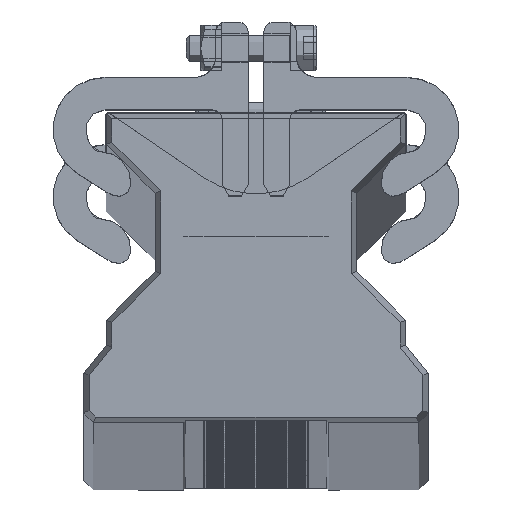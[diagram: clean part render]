
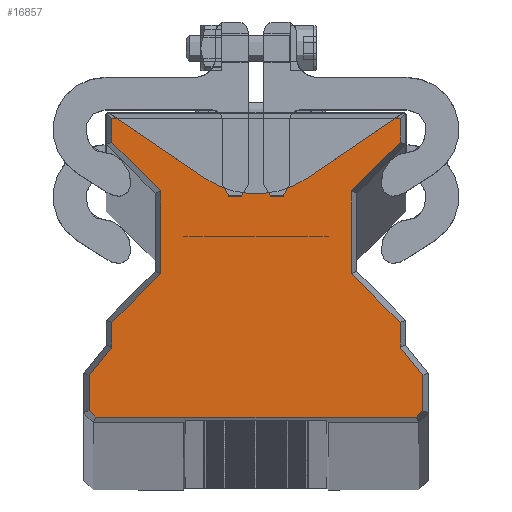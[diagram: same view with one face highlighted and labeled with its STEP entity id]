
A CAD part, top view. The second image highlights one B-rep face of the part: STEP entity #16857.
In plain terms, the highlighted planar face has unit normal (0, 0, 1).
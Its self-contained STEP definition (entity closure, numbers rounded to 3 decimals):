
#6206=DIRECTION('',(1.,0.,0.));
#6207=VECTOR('',#6206,49.296);
#6208=CARTESIAN_POINT('',(-24.648,0.85,0.));
#6209=LINE('',#6208,#6207);
#6210=DIRECTION('',(0.707,-0.707,0.));
#6211=VECTOR('',#6210,1.417);
#6212=CARTESIAN_POINT('',(-25.65,1.852,0.));
#6213=LINE('',#6212,#6211);
#6214=DIRECTION('',(0.,-1.,0.));
#6215=VECTOR('',#6214,5.446);
#6216=CARTESIAN_POINT('',(-25.65,7.298,0.));
#6217=LINE('',#6216,#6215);
#6218=DIRECTION('',(0.631,0.776,0.));
#6219=VECTOR('',#6218,5.548);
#6220=CARTESIAN_POINT('',(-25.65,7.298,0.));
#6221=LINE('',#6220,#6219);
#6222=DIRECTION('',(0.,-1.,0.));
#6223=VECTOR('',#6222,3.795);
#6224=CARTESIAN_POINT('',(-22.15,15.398,0.));
#6225=LINE('',#6224,#6223);
#6226=DIRECTION('',(-0.707,-0.707,0.));
#6227=VECTOR('',#6226,10.607);
#6228=CARTESIAN_POINT('',(-14.65,22.898,0.));
#6229=LINE('',#6228,#6227);
#6230=DIRECTION('',(0.,-1.,0.));
#6231=VECTOR('',#6230,12.704);
#6232=CARTESIAN_POINT('',(-14.65,35.602,0.));
#6233=LINE('',#6232,#6231);
#6234=DIRECTION('',(0.707,-0.707,0.));
#6235=VECTOR('',#6234,10.607);
#6236=CARTESIAN_POINT('',(-22.15,43.102,0.));
#6237=LINE('',#6236,#6235);
#6238=DIRECTION('',(0.,-1.,0.));
#6239=VECTOR('',#6238,3.598);
#6240=CARTESIAN_POINT('',(-22.15,46.7,0.));
#6241=LINE('',#6240,#6239);
#6242=DIRECTION('',(-1.,0.,0.));
#6243=VECTOR('',#6242,44.3);
#6244=CARTESIAN_POINT('',(22.15,46.7,0.));
#6245=LINE('',#6244,#6243);
#6246=DIRECTION('',(0.,1.,0.));
#6247=VECTOR('',#6246,3.598);
#6248=CARTESIAN_POINT('',(22.15,43.102,0.));
#6249=LINE('',#6248,#6247);
#6250=DIRECTION('',(-0.707,-0.707,0.));
#6251=VECTOR('',#6250,10.607);
#6252=CARTESIAN_POINT('',(22.15,43.102,0.));
#6253=LINE('',#6252,#6251);
#6254=DIRECTION('',(0.,1.,0.));
#6255=VECTOR('',#6254,12.704);
#6256=CARTESIAN_POINT('',(14.65,22.898,0.));
#6257=LINE('',#6256,#6255);
#6258=DIRECTION('',(-0.707,0.707,0.));
#6259=VECTOR('',#6258,10.607);
#6260=CARTESIAN_POINT('',(22.15,15.398,0.));
#6261=LINE('',#6260,#6259);
#6262=DIRECTION('',(0.,1.,0.));
#6263=VECTOR('',#6262,3.795);
#6264=CARTESIAN_POINT('',(22.15,11.602,0.));
#6265=LINE('',#6264,#6263);
#6266=DIRECTION('',(-0.631,0.776,0.));
#6267=VECTOR('',#6266,5.548);
#6268=CARTESIAN_POINT('',(25.65,7.298,0.));
#6269=LINE('',#6268,#6267);
#6270=DIRECTION('',(0.,1.,0.));
#6271=VECTOR('',#6270,5.446);
#6272=CARTESIAN_POINT('',(25.65,1.852,0.));
#6273=LINE('',#6272,#6271);
#6274=DIRECTION('',(0.707,0.707,0.));
#6275=VECTOR('',#6274,1.417);
#6276=CARTESIAN_POINT('',(24.648,0.85,0.));
#6277=LINE('',#6276,#6275);
#6654=CARTESIAN_POINT('',(-24.648,0.85,0.));
#6655=CARTESIAN_POINT('',(24.648,0.85,0.));
#6656=VERTEX_POINT('',#6654);
#6657=VERTEX_POINT('',#6655);
#6658=CARTESIAN_POINT('',(25.65,1.852,0.));
#6659=VERTEX_POINT('',#6658);
#6660=CARTESIAN_POINT('',(25.65,7.298,0.));
#6661=VERTEX_POINT('',#6660);
#6662=CARTESIAN_POINT('',(22.15,11.602,0.));
#6663=VERTEX_POINT('',#6662);
#6664=CARTESIAN_POINT('',(22.15,15.398,0.));
#6665=VERTEX_POINT('',#6664);
#6666=CARTESIAN_POINT('',(14.65,22.898,0.));
#6667=VERTEX_POINT('',#6666);
#6668=CARTESIAN_POINT('',(14.65,35.602,0.));
#6669=VERTEX_POINT('',#6668);
#6670=CARTESIAN_POINT('',(22.15,43.102,0.));
#6671=VERTEX_POINT('',#6670);
#6672=CARTESIAN_POINT('',(22.15,46.7,0.));
#6673=VERTEX_POINT('',#6672);
#6674=CARTESIAN_POINT('',(-22.15,46.7,0.));
#6675=VERTEX_POINT('',#6674);
#6676=CARTESIAN_POINT('',(-22.15,43.102,0.));
#6677=VERTEX_POINT('',#6676);
#6678=CARTESIAN_POINT('',(-14.65,35.602,0.));
#6679=VERTEX_POINT('',#6678);
#6680=CARTESIAN_POINT('',(-14.65,22.898,0.));
#6681=VERTEX_POINT('',#6680);
#6682=CARTESIAN_POINT('',(-22.15,15.398,0.));
#6683=VERTEX_POINT('',#6682);
#6684=CARTESIAN_POINT('',(-22.15,11.602,0.));
#6685=VERTEX_POINT('',#6684);
#6686=CARTESIAN_POINT('',(-25.65,7.298,0.));
#6687=VERTEX_POINT('',#6686);
#8174=CARTESIAN_POINT('',(-25.65,1.852,0.));
#8175=VERTEX_POINT('',#8174);
#16815=CARTESIAN_POINT('',(0.,0.,0.));
#16816=DIRECTION('',(0.,0.,1.));
#16817=DIRECTION('',(1.,0.,0.));
#16818=AXIS2_PLACEMENT_3D('',#16815,#16816,#16817);
#16819=PLANE('',#16818);
#16821=ORIENTED_EDGE('',*,*,#16820,.F.);
#16823=ORIENTED_EDGE('',*,*,#16822,.F.);
#16825=ORIENTED_EDGE('',*,*,#16824,.F.);
#16827=ORIENTED_EDGE('',*,*,#16826,.T.);
#16829=ORIENTED_EDGE('',*,*,#16828,.F.);
#16831=ORIENTED_EDGE('',*,*,#16830,.F.);
#16833=ORIENTED_EDGE('',*,*,#16832,.F.);
#16834=ORIENTED_EDGE('',*,*,#16805,.F.);
#16836=ORIENTED_EDGE('',*,*,#16835,.F.);
#16838=ORIENTED_EDGE('',*,*,#16837,.F.);
#16840=ORIENTED_EDGE('',*,*,#16839,.F.);
#16842=ORIENTED_EDGE('',*,*,#16841,.T.);
#16844=ORIENTED_EDGE('',*,*,#16843,.F.);
#16846=ORIENTED_EDGE('',*,*,#16845,.F.);
#16848=ORIENTED_EDGE('',*,*,#16847,.F.);
#16850=ORIENTED_EDGE('',*,*,#16849,.F.);
#16852=ORIENTED_EDGE('',*,*,#16851,.F.);
#16854=ORIENTED_EDGE('',*,*,#16853,.F.);
#16855=EDGE_LOOP('',(#16821,#16823,#16825,#16827,#16829,#16831,#16833,#16834,
#16836,#16838,#16840,#16842,#16844,#16846,#16848,#16850,#16852,#16854));
#16856=FACE_OUTER_BOUND('',#16855,.F.);
#16805=EDGE_CURVE('',#6677,#6679,#6237,.T.);
#16820=EDGE_CURVE('',#6656,#6657,#6209,.T.);
#16822=EDGE_CURVE('',#8175,#6656,#6213,.T.);
#16824=EDGE_CURVE('',#6687,#8175,#6217,.T.);
#16826=EDGE_CURVE('',#6687,#6685,#6221,.T.);
#16828=EDGE_CURVE('',#6683,#6685,#6225,.T.);
#16830=EDGE_CURVE('',#6681,#6683,#6229,.T.);
#16832=EDGE_CURVE('',#6679,#6681,#6233,.T.);
#16835=EDGE_CURVE('',#6675,#6677,#6241,.T.);
#16837=EDGE_CURVE('',#6673,#6675,#6245,.T.);
#16839=EDGE_CURVE('',#6671,#6673,#6249,.T.);
#16841=EDGE_CURVE('',#6671,#6669,#6253,.T.);
#16843=EDGE_CURVE('',#6667,#6669,#6257,.T.);
#16845=EDGE_CURVE('',#6665,#6667,#6261,.T.);
#16847=EDGE_CURVE('',#6663,#6665,#6265,.T.);
#16849=EDGE_CURVE('',#6661,#6663,#6269,.T.);
#16851=EDGE_CURVE('',#6659,#6661,#6273,.T.);
#16853=EDGE_CURVE('',#6657,#6659,#6277,.T.);
#16857=ADVANCED_FACE('',(#16856),#16819,.T.);
